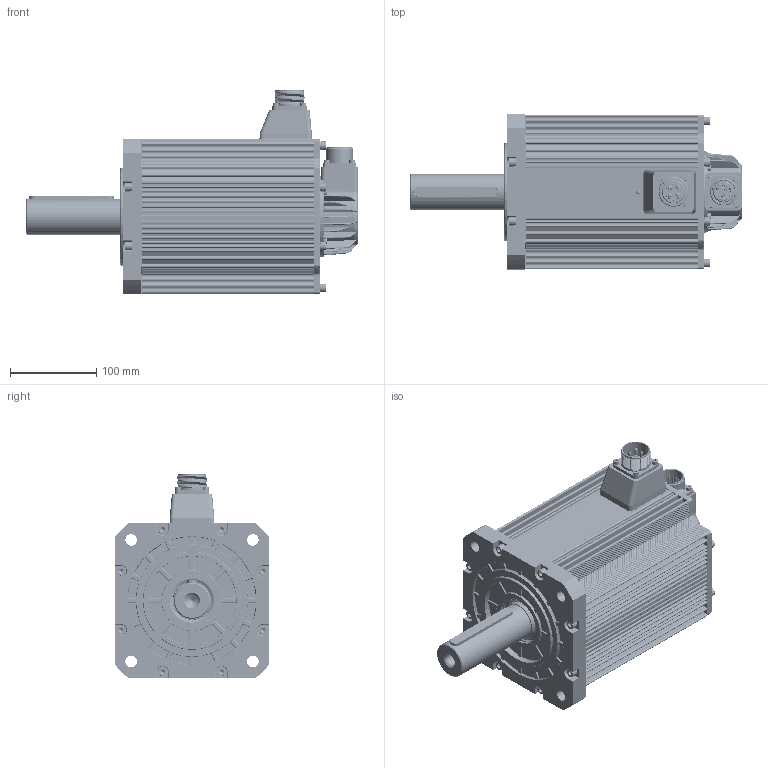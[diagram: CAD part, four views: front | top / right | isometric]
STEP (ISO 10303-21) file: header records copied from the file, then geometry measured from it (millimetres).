
FILE_DESCRIPTION((''),'2;1');
FILE_NAME('IMS20A-18M30C15C_ASM','2024-11-14T13:06:51',('0108628'),(''),'CREO PARAMETRIC BY PTC INC, 2019080','CREO PARAMETRIC BY PTC INC, 2019080','');
FILE_SCHEMA(('CONFIG_CONTROL_DESIGN'));
Products named in the file (36): 83040121_AF0; 6206_AF0; 80100282_AF0; JB6695-161_AF0; ZHUAN180-3KW_AF0_ASM; JIKE-55C-1_AF1; 5X8L; DZ-180-274L_AF0_ASM; GB93-6; GBT7R1-6X25; QIANDUANGAI_180_AF0; JB6695_AF0; YOUFENG; QDG_AF0_ASM; 87800001_AF0; M4X12-_AF00; M4X12-_AF10; M4X12-_AF20; M4X12-_AF30; DIN912-M4X6-8_8_AF0; DINENISO7092-4_AF0; DIN912-M4X6-8_8_AF1; DINENISO7092-4_AF1; DIN912-M4X7-8_8; DINENISO7092-4; JIAN; 86870277_AF0; YD32-180-TY; YD32-MD; YD32-MDS; DONGLI-HC-5015; YD32-4_ASM; XINHAO-HC-5015; DIN912-M4X40-8_8; DIN912-M4X12-8_8; IMS20A-18M30C15C_ASM
Assembly tree (72 placements, depth 3):
  IMS20A-18M30C15C_ASM
    ZHUAN180-3KW_AF0_ASM
      83040121_AF0
      6206_AF0
      80100282_AF0
      JB6695-161_AF0
    DZ-180-274L_AF0_ASM
      JIKE-55C-1_AF1
      5X8L
    GB93-6  x9
    GBT7R1-6X25  x8
    QDG_AF0_ASM
      QIANDUANGAI_180_AF0
      JB6695_AF0
      GB93-6  x8
      GBT7R1-6X25  x8
      YOUFENG
    87800001_AF0
    M4X12-_AF00
    M4X12-_AF10
    M4X12-_AF20
    M4X12-_AF30
    DIN912-M4X6-8_8_AF0
    DINENISO7092-4_AF0
    DIN912-M4X6-8_8_AF1
    DINENISO7092-4_AF1
    DIN912-M4X7-8_8
    DINENISO7092-4
    JIAN
    86870277_AF0
    YD32-4_ASM
      YD32-180-TY
      YD32-MD
      YD32-MDS
      DONGLI-HC-5015
    XINHAO-HC-5015
    DIN912-M4X40-8_8  x4
    DIN912-M4X12-8_8  x4
Bounding box: 386 x 180 x 237.4 mm (x, y, z)
Volume: 1985912.5 mm3; surface area: 778455.1 mm2
Topology: 67 solids, 129 shells, 6848 faces, 17707 edges, 11235 vertices
Faces by surface type: plane 2473, cylinder 2165, extrusion 732, cone 478, bspline 466, torus 390, sphere 144
Entity records: 259369 total; most frequent: CARTESIAN_POINT 110836, ORIENTED_EDGE 32114, DIRECTION 28699, EDGE_CURVE 16131, VERTEX_POINT 10374, AXIS2_PLACEMENT_3D 9978, VECTOR 8743, LINE 8011
